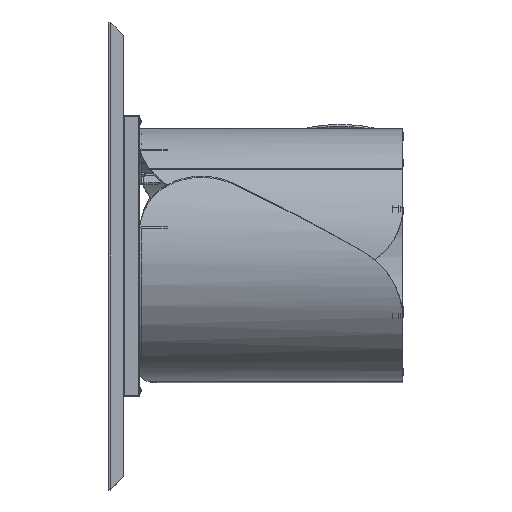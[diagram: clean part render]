
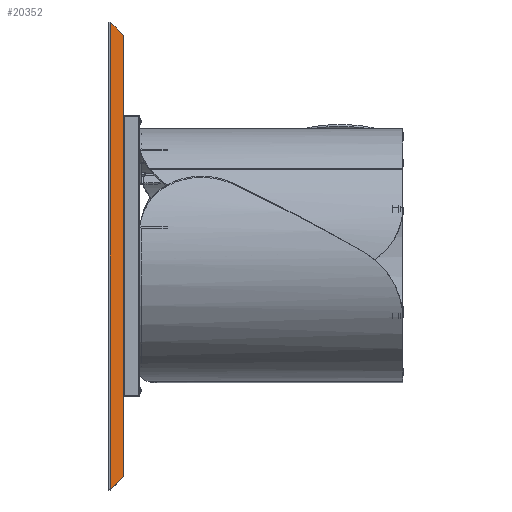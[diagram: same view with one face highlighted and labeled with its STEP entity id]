
A CAD part, left-side view. The second image highlights one B-rep face of the part: STEP entity #20352.
In plain terms, the highlighted planar face has unit normal (-0.707, -0.707, 0).
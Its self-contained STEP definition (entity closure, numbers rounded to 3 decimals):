
#54 = DIRECTION ( 'NONE',  ( 0., 0., 1. ) ) ;
#244 = CARTESIAN_POINT ( 'NONE',  ( -1165.293, 0.293, -565.293 ) ) ;
#361 = VECTOR ( 'NONE', #15551, 1000. ) ;
#1251 = FACE_OUTER_BOUND ( 'NONE', #19178, .T. ) ;
#1548 = CARTESIAN_POINT ( 'NONE',  ( -1165.293, 0.293, 565. ) ) ;
#1659 = LINE ( 'NONE', #1548, #6846 ) ;
#2107 = VECTOR ( 'NONE', #15745, 1000. ) ;
#3400 = ORIENTED_EDGE ( 'NONE', *, *, #4909, .F. ) ;
#3864 = CARTESIAN_POINT ( 'NONE',  ( -1198.536, 33.536, 598.536 ) ) ;
#4249 = CARTESIAN_POINT ( 'NONE',  ( -1198.536, 33.536, -598.536 ) ) ;
#4648 = CARTESIAN_POINT ( 'NONE',  ( -1200., 35., -600. ) ) ;
#4746 = AXIS2_PLACEMENT_3D ( 'NONE', #15998, #23379, #21660 ) ;
#4846 = CARTESIAN_POINT ( 'NONE',  ( -800., -365., 200. ) ) ;
#4909 = EDGE_CURVE ( 'NONE', #11033, #21101, #9073, .T. ) ;
#4983 = CARTESIAN_POINT ( 'NONE',  ( -1198.536, 33.536, -598.536 ) ) ;
#6157 = VERTEX_POINT ( 'NONE', #4983 ) ;
#6609 = ORIENTED_EDGE ( 'NONE', *, *, #6874, .T. ) ;
#6650 = CARTESIAN_POINT ( 'NONE',  ( -1199.486, 34.486, -597.585 ) ) ;
#6846 = VECTOR ( 'NONE', #9250, 1000. ) ;
#6858 = CARTESIAN_POINT ( 'NONE',  ( -1165.293, 0.293, 565.293 ) ) ;
#6874 = EDGE_CURVE ( 'NONE', #6157, #8640, #21465, .T. ) ;
#7766 = EDGE_CURVE ( 'NONE', #11033, #6157, #22971, .T. ) ;
#8589 = PLANE ( 'NONE',  #4746 ) ;
#8640 = VERTEX_POINT ( 'NONE', #244 ) ;
#9073 = LINE ( 'NONE', #18048, #20405 ) ;
#9250 = DIRECTION ( 'NONE',  ( 0., 0., 1. ) ) ;
#9339 = CARTESIAN_POINT ( 'NONE',  ( -1198.536, 33.536, 598.536 ) ) ;
#9563 = EDGE_CURVE ( 'NONE', #19835, #21101, #22040, .T. ) ;
#9886 = ORIENTED_EDGE ( 'NONE', *, *, #19240, .T. ) ;
#11033 = VERTEX_POINT ( 'NONE', #15456 ) ;
#11237 = CARTESIAN_POINT ( 'NONE',  ( -1200., 35., 595. ) ) ;
#11576 = ORIENTED_EDGE ( 'NONE', *, *, #7766, .T. ) ;
#12477 = VERTEX_POINT ( 'NONE', #6858 ) ;
#13056 = CARTESIAN_POINT ( 'NONE',  ( -1199.486, 34.486, 597.585 ) ) ;
#14497 = ORIENTED_EDGE ( 'NONE', *, *, #9563, .T. ) ;
#14529 = EDGE_CURVE ( 'NONE', #19835, #12477, #17921, .T. ) ;
#15456 = CARTESIAN_POINT ( 'NONE',  ( -1200., 35., -595. ) ) ;
#15551 = DIRECTION ( 'NONE',  ( 0.577, -0.577, 0.577 ) ) ;
#15734 = CARTESIAN_POINT ( 'NONE',  ( -1200., 35., -595. ) ) ;
#15745 = DIRECTION ( 'NONE',  ( 0.577, -0.577, -0.577 ) ) ;
#15883 = CARTESIAN_POINT ( 'NONE',  ( -1200., 35., 595. ) ) ;
#15998 = CARTESIAN_POINT ( 'NONE',  ( -1200., 35., -600. ) ) ;
#17921 = LINE ( 'NONE', #4846, #2107 ) ;
#18048 = CARTESIAN_POINT ( 'NONE',  ( -1200., 35., -600. ) ) ;
#19178 = EDGE_LOOP ( 'NONE', ( #6609, #9886, #20934, #14497, #3400, #11576 ) ) ;
#19240 = EDGE_CURVE ( 'NONE', #8640, #12477, #1659, .T. ) ;
#19835 = VERTEX_POINT ( 'NONE', #9339 ) ;
#20352 = ADVANCED_FACE ( 'NONE', ( #1251 ), #8589, .F. ) ;
#20405 = VECTOR ( 'NONE', #54, 1000. ) ;
#20799 = CARTESIAN_POINT ( 'NONE',  ( -1200., 35., 596.344 ) ) ;
#20934 = ORIENTED_EDGE ( 'NONE', *, *, #14529, .F. ) ;
#21101 = VERTEX_POINT ( 'NONE', #15883 ) ;
#21465 = LINE ( 'NONE', #4648, #361 ) ;
#21660 = DIRECTION ( 'NONE',  ( 0., 0., 1. ) ) ;
#22040 =( BOUNDED_CURVE ( )  B_SPLINE_CURVE ( 3, ( #3864, #13056, #20799, #11237 ),
 .UNSPECIFIED., .F., .F. ) 
 B_SPLINE_CURVE_WITH_KNOTS ( ( 4, 4 ),
 ( 2.356, 3.142 ),
 .UNSPECIFIED. ) 
 CURVE ( )  GEOMETRIC_REPRESENTATION_ITEM ( )  RATIONAL_B_SPLINE_CURVE ( ( 1., 0.949, 0.949, 1. ) ) 
 REPRESENTATION_ITEM ( '' )  );
#22971 =( BOUNDED_CURVE ( )  B_SPLINE_CURVE ( 3, ( #15734, #23125, #6650, #4249 ),
 .UNSPECIFIED., .F., .F. ) 
 B_SPLINE_CURVE_WITH_KNOTS ( ( 4, 4 ),
 ( 3.142, 3.927 ),
 .UNSPECIFIED. ) 
 CURVE ( )  GEOMETRIC_REPRESENTATION_ITEM ( )  RATIONAL_B_SPLINE_CURVE ( ( 1., 0.949, 0.949, 1. ) ) 
 REPRESENTATION_ITEM ( '' )  );
#23125 = CARTESIAN_POINT ( 'NONE',  ( -1200., 35., -596.344 ) ) ;
#23379 = DIRECTION ( 'NONE',  ( 0.707, 0.707, 0. ) ) ;
